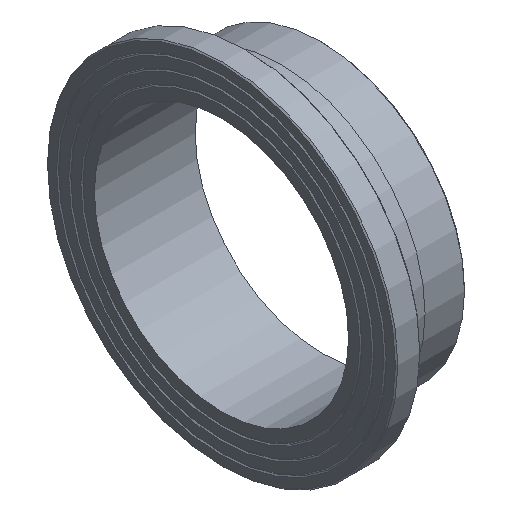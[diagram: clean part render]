
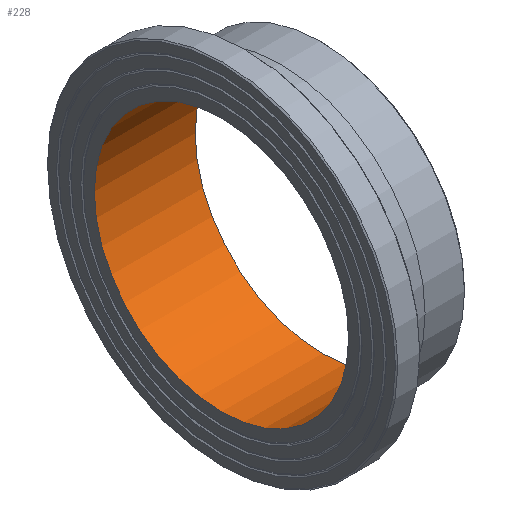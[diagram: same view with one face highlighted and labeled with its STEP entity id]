
A CAD part, isometric view. The second image highlights one B-rep face of the part: STEP entity #228.
In plain terms, the highlighted cylindrical face has radius 156.4 mm (diameter 312.8 mm), a full revolution.
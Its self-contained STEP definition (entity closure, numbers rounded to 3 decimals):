
#33=CYLINDRICAL_SURFACE('',#274,156.4);
#50=ORIENTED_EDGE('',*,*,#79,.F.);
#51=ORIENTED_EDGE('',*,*,#76,.T.);
#76=EDGE_CURVE('',#96,#96,#116,.T.);
#79=EDGE_CURVE('',#99,#99,#119,.T.);
#96=VERTEX_POINT('',#383);
#99=VERTEX_POINT('',#390);
#116=CIRCLE('',#257,156.4);
#119=CIRCLE('',#261,156.4);
#150=EDGE_LOOP('',(#50));
#151=EDGE_LOOP('',(#51));
#190=FACE_BOUND('',#150,.T.);
#191=FACE_BOUND('',#151,.T.);
#228=ADVANCED_FACE('',(#190,#191),#33,.F.);
#257=AXIS2_PLACEMENT_3D('',#382,#303,#304);
#261=AXIS2_PLACEMENT_3D('',#389,#311,#312);
#274=AXIS2_PLACEMENT_3D('',#410,#337,#338);
#303=DIRECTION('',(-1.,0.,0.));
#304=DIRECTION('',(0.,0.,1.));
#311=DIRECTION('',(-1.,0.,0.));
#312=DIRECTION('',(0.,0.,1.));
#337=DIRECTION('',(-1.,0.,0.));
#338=DIRECTION('',(0.,0.,1.));
#382=CARTESIAN_POINT('',(0.,0.,0.));
#383=CARTESIAN_POINT('',(0.,0.,156.4));
#389=CARTESIAN_POINT('',(124.,0.,0.));
#390=CARTESIAN_POINT('',(124.,0.,156.4));
#410=CARTESIAN_POINT('',(60.,0.,0.));
